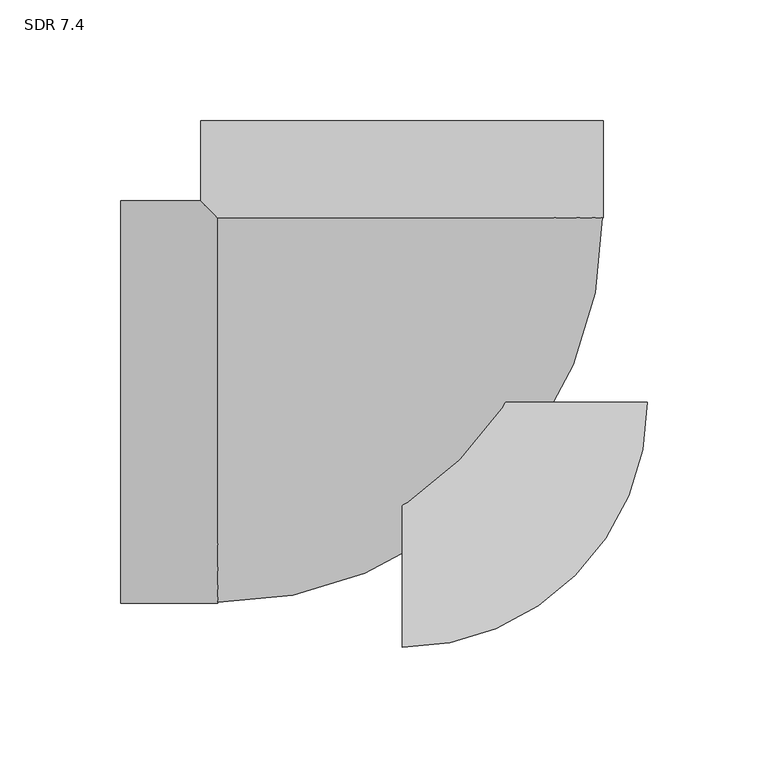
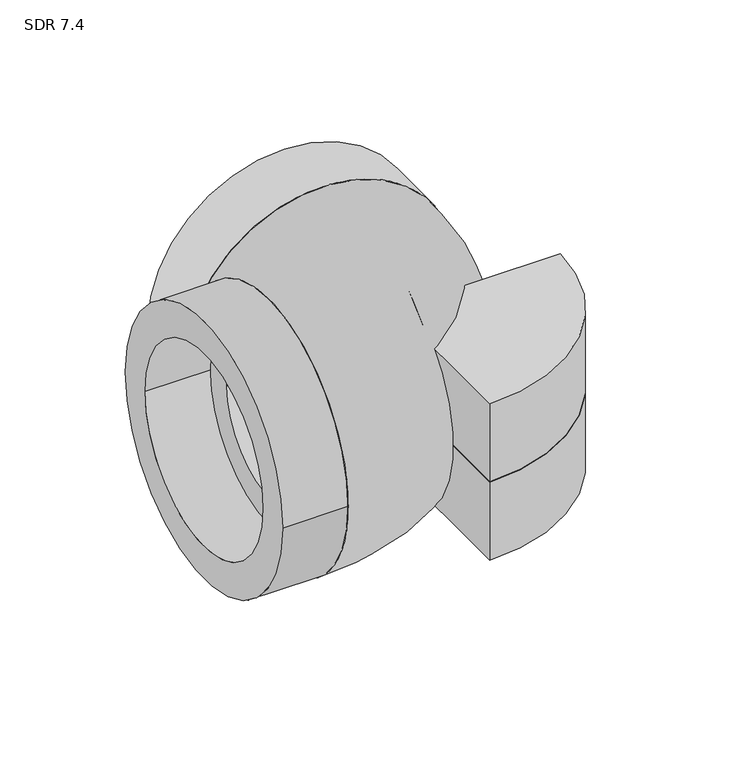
"""IFC4 building model written with IfcOpenShell, lengths in millimetres: pipe fitting geometry, Aquatherm - Elbow Socket : SDR 7.4."""

from ifc_helpers import new_model, si_unit, point, frame, origin, origin_with_axes, origin_2d, place, context, project, spatial, polyline, circle_curve, ellipse_curve, trimmed, segment, composite_curve, outline, extrude, source, transform, mapped, element, save
from ifc_brep_helpers import plane_surface, revolved_surface, advanced_brep


def sdr_7_4_42f3162b(model_context):
    return source(origin(), model_context, "Body", "SolidModel", [
        extrude(outline(composite_curve([segment(polyline([(0.0, -101.6), (0.0, 0.0), (101.6, 0.0)]), True, "CONTINUOUS"), segment(trimmed(circle_curve(origin_2d(), 101.6), [point((101.6, 0.0))], [point((0.0, -101.6))], False, "CARTESIAN"), True, "CONTINUOUS")], self_intersect=False)), frame((0.0, 0.0, -50.8), z_axis=(0.0, 0.0, 1.0), x_axis=(1.0, 0.0, 0.0)), (0.0, 0.0, 1.0), 50.8),
        extrude(outline(composite_curve([segment(trimmed(circle_curve(origin_2d(), 101.6), [point((101.6, 0.0))], [point((0.0, -101.6))], False, "CARTESIAN"), True, "CONTINUOUS"), segment(polyline([(0.0, -101.6), (0.0, 0.0), (101.6, 0.0)]), True, "CONTINUOUS")], self_intersect=False)), origin_with_axes(), (0.0, 0.0, 1.0), 50.8),
        extrude(outline(composite_curve([segment(trimmed(circle_curve(origin_2d(), 83.439), [point((0.0, 83.439))], [point((0.0, -83.439))], False, "CARTESIAN"), True, "CONTINUOUS"), segment(trimmed(circle_curve(origin_2d(), 83.439), [point((0.0, -83.439))], [point((0.0, 83.439))], False, "CARTESIAN"), True, "CONTINUOUS")], self_intersect=False), holes=[composite_curve([segment(trimmed(circle_curve(origin_2d(), 62.484), [point((0.0, 62.484))], [point((0.0, -62.484))], True, "CARTESIAN"), True, "CONTINUOUS"), segment(trimmed(circle_curve(origin_2d(), 62.484), [point((0.0, -62.484))], [point((0.0, 62.484))], True, "CARTESIAN"), True, "CONTINUOUS")], self_intersect=False)]), frame((0.0, 76.454, 0.0), z_axis=(0.0, 1.0, 0.0), x_axis=(0.0, 0.0, 1.0)), (0.0, 0.0, 1.0), 40.132),
        advanced_brep(
        [(-76.454, 76.454, -33.4193448), (-76.454, 76.454, 33.4193448), (-76.454, -45.1273333, 0.0), (-76.454, 45.1273333, 0.0), (45.1273333, 76.454, 0.0), (-45.1273333, 76.454, 0.0)],
        [
            (0, 1, circle_curve(frame((-76.454, 0.0, 0.0), z_axis=(-1.0, 0.0, 0.0), x_axis=(0.0, 1.0, 0.0)), 83.439)),
            (1, 0),
            (2, 3, circle_curve(frame((-76.454, 0.0, 0.0), z_axis=(1.0, 0.0, 0.0), x_axis=(0.0, 1.0, 0.0)), 45.1273333)),
            (3, 2, circle_curve(frame((-76.454, 0.0, 0.0), z_axis=(1.0, 0.0, 0.0), x_axis=(0.0, 1.0, 0.0)), 45.1273333)),
            (1, 0, circle_curve(frame((0.0, 76.454, 0.0), z_axis=(0.0, 1.0, 0.0), x_axis=(-1.0, 0.0, 0.0)), 83.439)),
            (4, 5, circle_curve(frame((0.0, 76.454, 0.0), z_axis=(0.0, -1.0, 0.0), x_axis=(-1.0, 0.0, 0.0)), 45.1273333)),
            (5, 4, circle_curve(frame((0.0, 76.454, 0.0), z_axis=(0.0, -1.0, 0.0), x_axis=(-1.0, 0.0, 0.0)), 45.1273333)),
            (5, 3, circle_curve(frame((-76.454, 76.454, 0.0), z_axis=(0.0, 0.0, -1.0), x_axis=(0.0, -1.0, 0.0)), 31.3266667)),
            (2, 4, circle_curve(frame((-76.454, 76.454, 0.0), z_axis=(0.0, 0.0, 1.0), x_axis=(0.0, -1.0, 0.0)), 121.5813333)),
        ],
        [
            plane_surface(frame((-76.454, 76.454, 90.5693448), z_axis=(-1.0, 0.0, 0.0), x_axis=(0.0, -1.0, 0.0))),
            plane_surface(frame((-76.454, 76.454, 90.5693448), z_axis=(0.0, 1.0, 0.0), x_axis=(1.0, 0.0, 0.0))),
            revolved_surface(trimmed(ellipse_curve(frame((-76.454, 0.0, 0.0), z_axis=(1.0, 0.0, 0.0), x_axis=(0.0, 1.0, 0.0)), 83.439, 83.439), [point((-76.454, 76.454, 33.4193448))], [point((-76.454, 76.454, -33.4193448))], True, "CARTESIAN"), (-76.454, 76.454, 90.5693448), (0.0, 0.0, -1.0)),
            revolved_surface(trimmed(ellipse_curve(frame((-76.454, 0.0, 0.0), z_axis=(-1.0, 0.0, 0.0), x_axis=(0.0, 1.0, 0.0)), 45.1273333, 45.1273333), [point((-76.454, 45.1273333, 0.0))], [point((-76.454, -45.1273333, 0.0))], True, "CARTESIAN"), (-76.454, 76.454, 90.5693448), (0.0, 0.0, -1.0)),
            revolved_surface(trimmed(ellipse_curve(frame((-76.454, 0.0, 0.0), z_axis=(-1.0, 0.0, 0.0), x_axis=(0.0, 1.0, 0.0)), 45.1273333, 45.1273333), [point((-76.454, -45.1273333, 0.0))], [point((-76.454, 45.1273333, 0.0))], True, "CARTESIAN"), (-76.454, 76.454, 90.5693448), (0.0, 0.0, -1.0)),
        ],
        [
            (0, [[1, 2], [3, 4]]),
            (1, [[5, -2], [6, 7]]),
            (2, [[-1, -5]]),
            (3, [[8, -3, 9, -7]]),
            (4, [[-9, -4, -8, -6]]),
        ],
    ),
        extrude(outline(composite_curve([segment(trimmed(circle_curve(origin_2d(), 83.439), [point((83.439, 0.0))], [point((-83.439, 0.0))], False, "CARTESIAN"), True, "CONTINUOUS"), segment(trimmed(circle_curve(origin_2d(), 83.439), [point((-83.439, 0.0))], [point((83.439, 0.0))], False, "CARTESIAN"), True, "CONTINUOUS")], self_intersect=False), holes=[composite_curve([segment(trimmed(circle_curve(origin_2d(), 62.484), [point((62.484, 0.0))], [point((-62.484, 0.0))], True, "CARTESIAN"), True, "CONTINUOUS"), segment(trimmed(circle_curve(origin_2d(), 62.484), [point((-62.484, 0.0))], [point((62.484, 0.0))], True, "CARTESIAN"), True, "CONTINUOUS")], self_intersect=False)]), frame((-116.586, 0.0, 0.0), z_axis=(1.0, 0.0, 0.0), x_axis=(0.0, 1.0, 0.0)), (0.0, 0.0, 1.0), 40.132),
    ])


if __name__ == "__main__":
    model = new_model("IFC4")
    model_context = context("Model", 3, world=origin())
    ifc_project = project(units=[si_unit("LENGTHUNIT", "METRE", prefix="MILLI")], contexts=[model_context])
    site = spatial("IfcSite", under=ifc_project)
    building = spatial("IfcBuilding", under=site)
    placement = place(None, origin())
    sdr_7_4_shape = sdr_7_4_42f3162b(model_context)
    element("IfcPipeFitting", 1, ObjectType="Aquatherm - Elbow Socket : SDR 7.4", at=placement, inside=building, context=model_context, shape_type="MappedRepresentation", body=[
        mapped(sdr_7_4_shape, transform((0.0, 0.0, 0.0), x_axis=(1.0, 0.0, 0.0), y_axis=(0.0, 1.0, 0.0), z_axis=(0.0, 0.0, 1.0))),
    ])
    save(model, "model.ifc")
